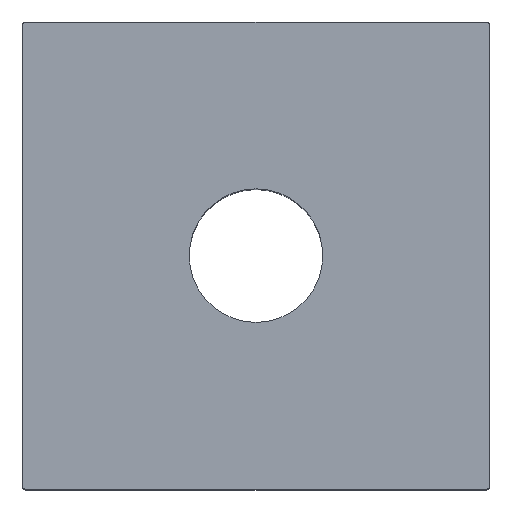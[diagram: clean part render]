
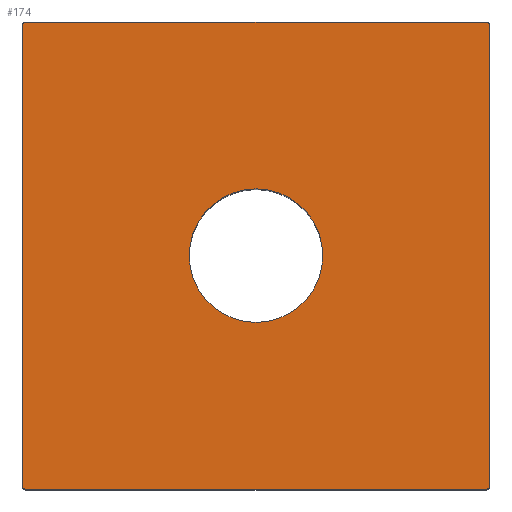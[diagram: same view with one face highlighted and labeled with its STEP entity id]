
A CAD part, top view. The second image highlights one B-rep face of the part: STEP entity #174.
In plain terms, the highlighted planar face has unit normal (0, 0, 1).
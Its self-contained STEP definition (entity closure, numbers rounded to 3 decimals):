
#174=ADVANCED_FACE('',(#213,#214),#202,.T.);
#202=PLANE('',#625);
#213=FACE_BOUND('',#217,.T.);
#214=FACE_BOUND('',#218,.T.);
#217=EDGE_LOOP('',(#323,#324,#325,#326,#327,#328,#329,#330));
#218=EDGE_LOOP('',(#331,#332));
#249=LINE('',#781,#283);
#250=LINE('',#785,#284);
#251=LINE('',#789,#285);
#252=LINE('',#793,#286);
#283=VECTOR('',#670,1.);
#284=VECTOR('',#673,1.);
#285=VECTOR('',#676,1.);
#286=VECTOR('',#679,1.);
#323=ORIENTED_EDGE('',*,*,#531,.T.);
#324=ORIENTED_EDGE('',*,*,#532,.T.);
#325=ORIENTED_EDGE('',*,*,#533,.T.);
#326=ORIENTED_EDGE('',*,*,#534,.T.);
#327=ORIENTED_EDGE('',*,*,#535,.T.);
#328=ORIENTED_EDGE('',*,*,#536,.T.);
#329=ORIENTED_EDGE('',*,*,#537,.T.);
#330=ORIENTED_EDGE('',*,*,#538,.T.);
#331=ORIENTED_EDGE('',*,*,#539,.T.);
#332=ORIENTED_EDGE('',*,*,#540,.T.);
#479=VERTEX_POINT('',#779);
#480=VERTEX_POINT('',#780);
#481=VERTEX_POINT('',#782);
#482=VERTEX_POINT('',#784);
#483=VERTEX_POINT('',#786);
#484=VERTEX_POINT('',#788);
#485=VERTEX_POINT('',#790);
#486=VERTEX_POINT('',#792);
#487=VERTEX_POINT('',#795);
#488=VERTEX_POINT('',#796);
#531=EDGE_CURVE('',#479,#480,#605,.T.);
#532=EDGE_CURVE('',#480,#481,#249,.T.);
#533=EDGE_CURVE('',#481,#482,#606,.T.);
#534=EDGE_CURVE('',#482,#483,#250,.T.);
#535=EDGE_CURVE('',#483,#484,#607,.T.);
#536=EDGE_CURVE('',#484,#485,#251,.T.);
#537=EDGE_CURVE('',#485,#486,#608,.T.);
#538=EDGE_CURVE('',#486,#479,#252,.T.);
#539=EDGE_CURVE('',#487,#488,#609,.T.);
#540=EDGE_CURVE('',#488,#487,#610,.T.);
#605=CIRCLE('',#619,0.5);
#606=CIRCLE('',#620,0.5);
#607=CIRCLE('',#621,0.5);
#608=CIRCLE('',#622,0.5);
#609=CIRCLE('',#623,10.);
#610=CIRCLE('',#624,10.);
#619=AXIS2_PLACEMENT_3D('',#778,#668,#669);
#620=AXIS2_PLACEMENT_3D('',#783,#671,#672);
#621=AXIS2_PLACEMENT_3D('',#787,#674,#675);
#622=AXIS2_PLACEMENT_3D('',#791,#677,#678);
#623=AXIS2_PLACEMENT_3D('',#794,#680,#681);
#624=AXIS2_PLACEMENT_3D('',#797,#682,#683);
#625=AXIS2_PLACEMENT_3D('',#798,#684,#685);
#668=DIRECTION('',(0.,0.,1.));
#669=DIRECTION('',(-0.707,0.707,0.));
#670=DIRECTION('',(0.,1.,0.));
#671=DIRECTION('',(0.,0.,1.));
#672=DIRECTION('',(-0.707,-0.707,0.));
#673=DIRECTION('',(-1.,0.,0.));
#674=DIRECTION('',(0.,0.,1.));
#675=DIRECTION('',(0.707,-0.707,0.));
#676=DIRECTION('',(0.,-1.,0.));
#677=DIRECTION('',(0.,0.,1.));
#678=DIRECTION('',(0.707,0.707,0.));
#679=DIRECTION('',(1.,0.,0.));
#680=DIRECTION('',(0.,0.,-1.));
#681=DIRECTION('',(-1.,0.,0.));
#682=DIRECTION('',(0.,0.,-1.));
#683=DIRECTION('',(1.,0.,0.));
#684=DIRECTION('',(0.,0.,1.));
#685=DIRECTION('',(-1.,0.,0.));
#778=CARTESIAN_POINT('',(34.5,-34.5,62.));
#779=CARTESIAN_POINT('',(34.5,-35.,62.));
#780=CARTESIAN_POINT('',(35.,-34.5,62.));
#781=CARTESIAN_POINT('',(35.,-34.5,62.));
#782=CARTESIAN_POINT('',(35.,34.5,62.));
#783=CARTESIAN_POINT('',(34.5,34.5,62.));
#784=CARTESIAN_POINT('',(34.5,35.,62.));
#785=CARTESIAN_POINT('',(-34.5,35.,62.));
#786=CARTESIAN_POINT('',(-34.5,35.,62.));
#787=CARTESIAN_POINT('',(-34.5,34.5,62.));
#788=CARTESIAN_POINT('',(-35.,34.5,62.));
#789=CARTESIAN_POINT('',(-35.,-34.5,62.));
#790=CARTESIAN_POINT('',(-35.,-34.5,62.));
#791=CARTESIAN_POINT('',(-34.5,-34.5,62.));
#792=CARTESIAN_POINT('',(-34.5,-35.,62.));
#793=CARTESIAN_POINT('',(-34.5,-35.,62.));
#794=CARTESIAN_POINT('',(0.,0.,62.));
#795=CARTESIAN_POINT('',(0.,10.,62.));
#796=CARTESIAN_POINT('',(0.,-10.,62.));
#797=CARTESIAN_POINT('',(0.,0.,62.));
#798=CARTESIAN_POINT('',(34.5,-35.,62.));
